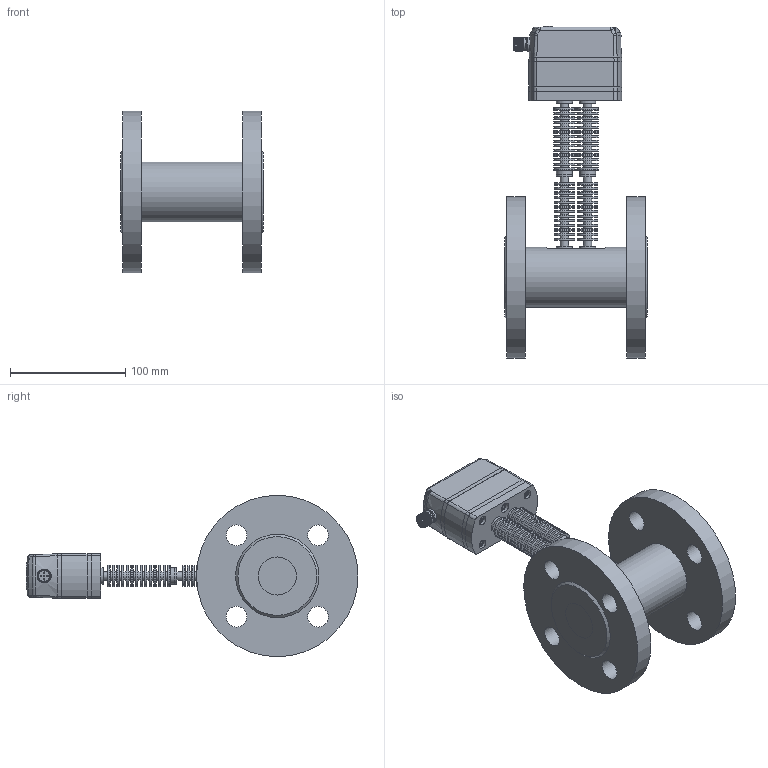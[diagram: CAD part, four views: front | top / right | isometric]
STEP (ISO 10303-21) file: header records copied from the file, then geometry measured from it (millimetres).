
FILE_DESCRIPTION( (''), '2;1');
FILE_NAME( 'QEKH_DN32_flange_cooling-fins_2.step', '2025-04-29T15:07:54+08:00', (''), (''), '', '', '');
FILE_SCHEMA (('AUTOMOTIVE_DESIGN { 1 0 10303 214 3 1 1 1 }'));
Length unit declared in the file: millimetre
Products named in the file (1): QEKH DN32_flange_cooling-fins_2
Bounding box: 124 x 287.9 x 140 mm (x, y, z)
Volume: 895155.2 mm3; surface area: 211355.4 mm2
Topology: 30 solids, 33 shells, 1888 faces, 4377 edges, 2782 vertices
Faces by surface type: plane 862, cylinder 414, cone 264, extrusion 239, torus 52, bspline 48, sphere 9
Full cylindrical faces by diameter (mm): 1 x10, 2.05 x4, 2.6 x4, 2.7 x5, 2.874 x4, 3 x8, 3.1 x1, 3.3 x8, 3.5 x7, 3.838 x6, 4.2 x2, 4.5 x12, 5 x2, 5.5 x10, 7 x62, 8 x4, 9 x2, 9.8 x2, 10.8 x1, 11 x8, 11.5 x2, 11.992 x2, 12 x8, 14 x10, 14.5 x2, 17 x2, 18 x34, 19 x28, 19.1 x6, 33 x4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
Entity records: 57824 total; most frequent: CARTESIAN_POINT 17371, DIRECTION 7725, ORIENTED_EDGE 7596, EDGE_CURVE 3798, AXIS2_PLACEMENT_3D 2825, VERTEX_POINT 2690, EDGE_LOOP 2668, VECTOR 2075
